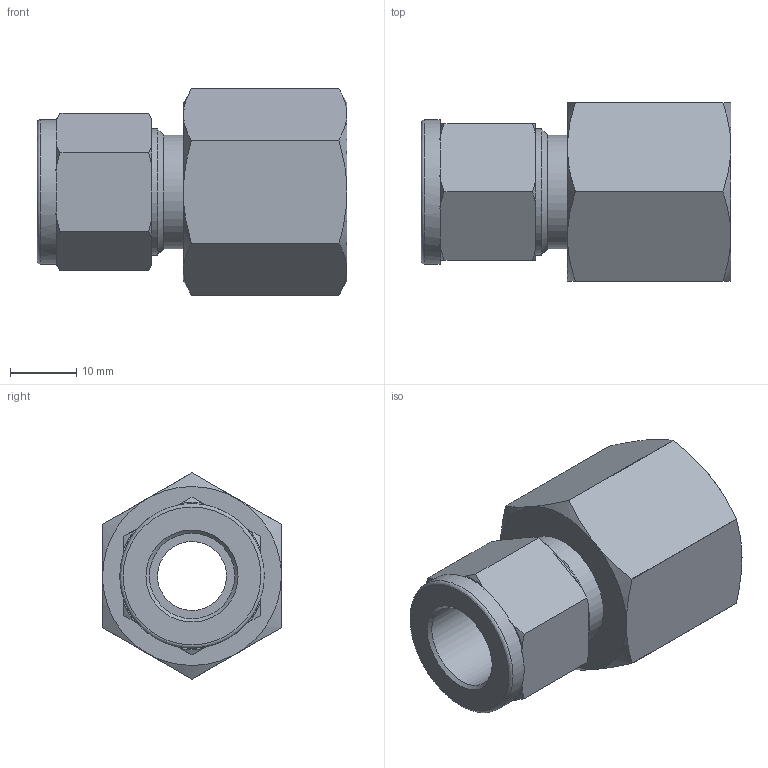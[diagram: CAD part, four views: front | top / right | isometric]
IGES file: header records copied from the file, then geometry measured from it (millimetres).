
Global section: file name: SFC-8-8N; native system: Autodesk Inventor 2016; preprocessor: unknown; author: 배성훈,,11,0; organization: 20151010.072609; date: 20151019.102704; units: millimetre
Bounding box: 46.8 x 27 x 31.16 mm (x, y, z)
Volume: 13715.9 mm3; surface area: 7257.9 mm2
Topology: 1 solids, 1 shells, 61 faces, 177 edges, 122 vertices
Faces by surface type: bspline 61
